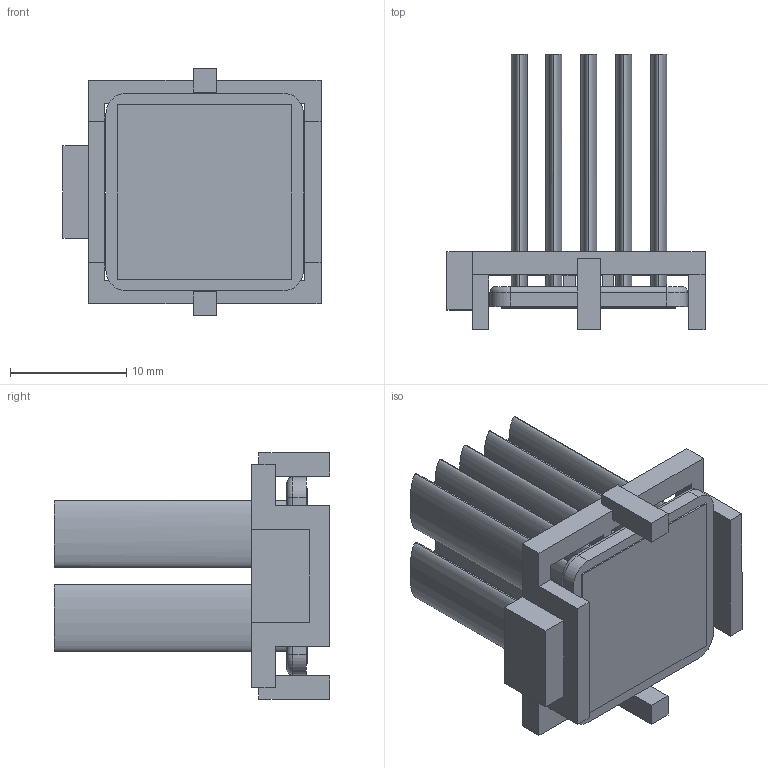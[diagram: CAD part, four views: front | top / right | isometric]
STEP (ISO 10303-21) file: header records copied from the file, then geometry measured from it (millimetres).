
FILE_DESCRIPTION (( 'STEP AP214' ), '1' );
FILE_NAME ('INM17001-22W-1.7Y.STEP', '2023-03-01T23:08:09', ( '' ), ( '' ), 'SwSTEP 2.0', 'SolidWorks 2020', '' );
FILE_SCHEMA (( 'AUTOMOTIVE_DESIGN' ));
Length unit declared in the file: millimetre
Products named in the file (1): INM17001-22W-1.7Y
Bounding box: 22.2 x 23.7 x 21.2 mm (x, y, z)
Volume: 2336.1 mm3; surface area: 4603.7 mm2
Topology: 3 solids, 3 shells, 99 faces, 244 edges, 160 vertices
Faces by surface type: plane 67, bspline 20, cylinder 8, torus 4
Entity records: 4079 total; most frequent: CARTESIAN_POINT 764, ORIENTED_EDGE 488, DIRECTION 384, EDGE_CURVE 244, VECTOR 184, LINE 184, VERTEX_POINT 160, EDGE_LOOP 110
